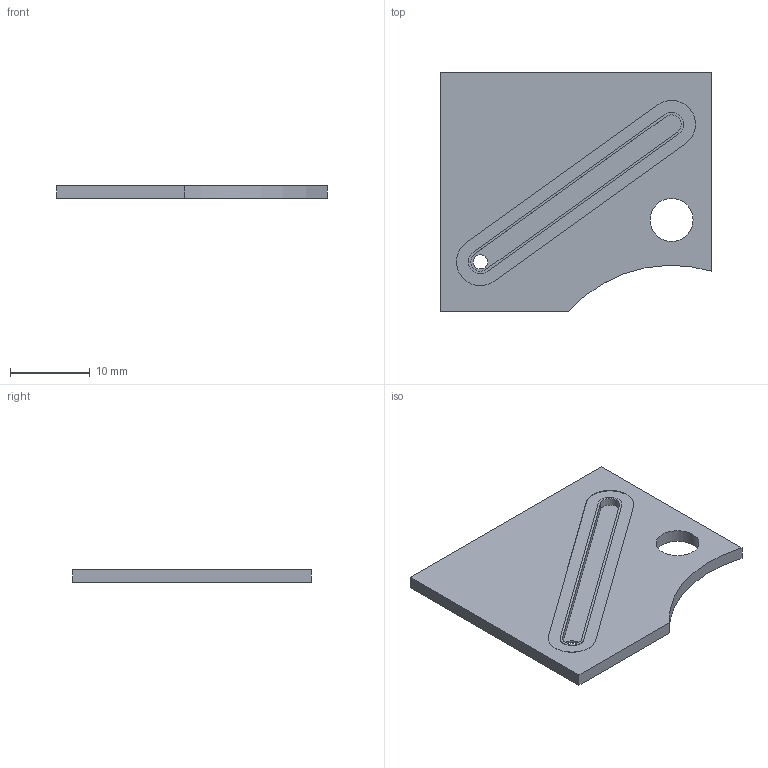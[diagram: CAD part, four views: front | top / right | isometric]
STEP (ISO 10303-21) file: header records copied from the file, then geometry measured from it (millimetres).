
FILE_DESCRIPTION(('Open CASCADE Model'),'2;1');
FILE_NAME('Open CASCADE Shape Model','2026-09-06T12:00:16',('Author'),( 'Open CASCADE'),'Open CASCADE STEP processor 7.7','Open CASCADE 7.7' ,'Unknown');
FILE_SCHEMA(('AUTOMOTIVE_DESIGN { 1 0 10303 214 1 1 1 1 }'));
Length unit declared in the file: millimetre
Products named in the file (1): Open CASCADE STEP translator 7.7 5
Bounding box: 34 x 30 x 1.6 mm (x, y, z)
Volume: 1372.6 mm3; surface area: 2142.8 mm2
Topology: 1 solids, 1 shells, 26 faces, 60 edges, 40 vertices
Faces by surface type: plane 16, cylinder 10
Full cylindrical faces by diameter (mm): 1.8 x1, 5.4 x1, 6.3 x1
Entity records: 1555 total; most frequent: CARTESIAN_POINT 333, DIRECTION 223, ORIENTED_EDGE 120, LINE 120, VECTOR 120, PCURVE 120, DEFINITIONAL_REPRESENTATION 120, EDGE_CURVE 60
